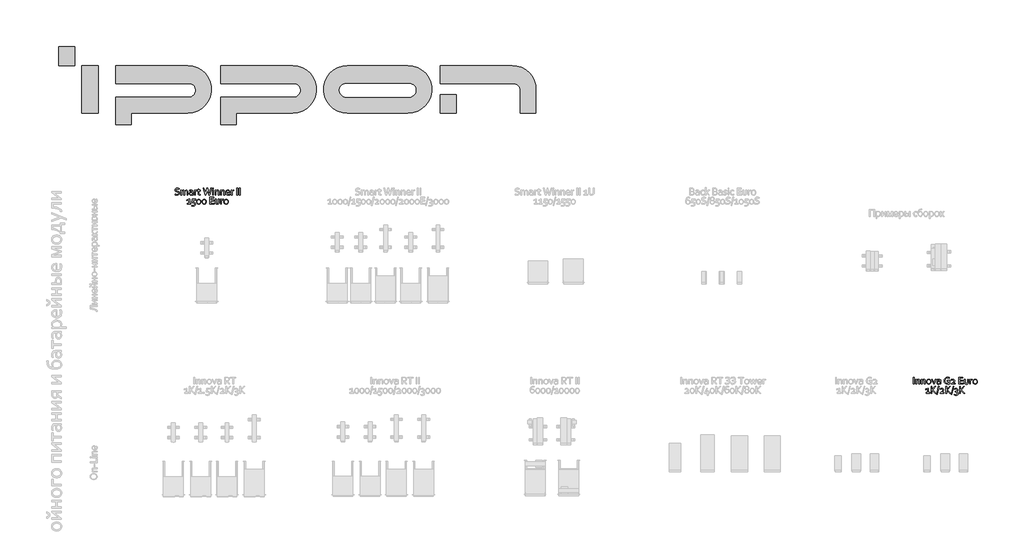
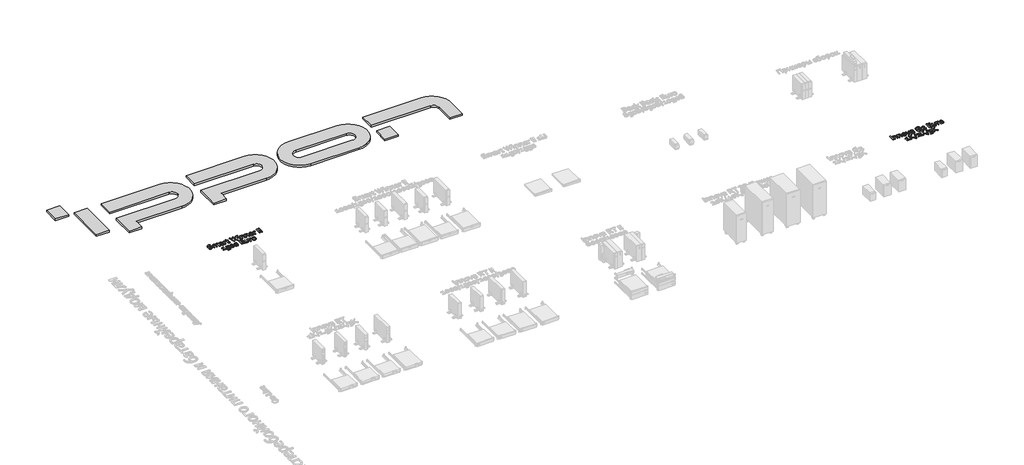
# One storey, part 11 of 14: 3 proxies.
"""IFC4 building model written with IfcOpenShell, lengths in millimetres."""

from ifc_helpers import new_model, si_unit, origin, origin_with_axes, place, context, project, spatial, polyline, outline, extrude, transform, mapped, element, save
from components import generic_models_99963152

model = new_model("IFC4")

# Units and contexts
model_context = context("Model", 3, world=origin())
ifc_project = project(units=[si_unit("LENGTHUNIT", "METRE", prefix="MILLI")], contexts=[model_context])

# Site, building, storey
site = spatial("IfcSite", under=ifc_project)
building = spatial("IfcBuilding", under=site)
storey = spatial("IfcBuildingStorey", under=building, Name="Этаж 01", Elevation=0.0)

# Proxies
placement = place(None, origin())
element("IfcBuildingElementProxy", 1, Name="150 мм Corbel", ObjectType="150 мм Corbel", at=placement, inside=storey, context=model_context, shape_type="SweptSolid", body=[
    extrude(outline(polyline([(4263.4945132, 936.8855088), (4266.2289116, 925.8822898), (4273.5570992, 918.7072285), (4284.2321904, 914.0696889), (4296.9197988, 910.6790349), (4314.3980731, 905.9321193), (4329.6888288, 898.757058), (4340.5389215, 886.8350812), (4344.695207, 867.9786701), (4340.2107937, 847.722247), (4327.8294379, 833.7002522), (4309.2792794, 825.5626827), (4285.938455, 822.9157851), (4274.0164781, 823.6376662), (4262.3570035, 825.5845579), (4252.3162927, 828.3845818), (4245.2506073, 831.4908583), (4245.2506073, 848.1160004), (4254.3288099, 844.681596), (4264.763274, 842.0346984), (4275.6352419, 840.3284338), (4285.938455, 839.7159286), (4300.922958, 841.050315), (4313.4136897, 845.5128531), (4321.9450126, 854.0223008), (4325.0950395, 867.5411663), (4322.2950156, 878.7193868), (4314.8355769, 886.0038241), (4304.0729849, 890.6851141), (4291.2322502, 894.0976432), (4273.8196014, 898.6476821), (4258.6600969, 905.7133675), (4247.9412553, 917.3509669), (4243.8943457, 935.5292472), (4248.138132, 955.3481665), (4259.6226051, 969.0857839), (4276.1821216, 977.1139775), (4296.0447913, 979.7171247), (4318.4012323, 977.4202301), (4337.3888945, 971.4483041), (4337.3888945, 954.5169094), (4318.1606053, 960.5107106), (4296.9197988, 962.9169812), (4282.1102973, 961.0794655), (4271.6977083, 955.8512958), (4265.5289056, 947.6262256), (4263.4945132, 936.8855088)])), origin_with_axes(), (0.0, 0.0, 1.0), 20.0),
    extrude(outline(polyline([(4459.4961878, 825.715809), (4442.6960443, 825.715809), (4442.6960443, 894.7976492), (4441.1647812, 906.7196261), (4436.7022431, 914.8134452), (4429.7240584, 919.4509848), (4420.6458559, 920.9166224), (4403.4300838, 915.6884527), (4389.4955897, 901.3164549), (4389.4955897, 825.715809), (4372.6954462, 825.715809), (4372.6954462, 932.116718), (4386.126811, 932.116718), (4389.4518394, 917.3290917), (4396.1456466, 924.1979004), (4403.7363364, 929.8198234), (4412.9457901, 933.5823556), (4423.9271339, 934.916742), (4434.7772266, 933.489386), (4443.6148021, 929.2073182), (4455.6899053, 913.6540603), (4472.3806729, 929.2729438), (4493.6652297, 934.916742), (4505.6090818, 933.3417285), (4517.2029308, 927.5666792), (4525.996756, 915.9728301), (4529.4967859, 896.9414175), (4529.4967859, 825.715809), (4512.6966423, 825.715809), (4512.6966423, 894.7976492), (4511.1653793, 906.7196261), (4506.7247163, 914.8134452), (4499.7684069, 919.4509848), (4490.6902043, 920.9166224), (4473.4525571, 915.6884527), (4459.4961878, 901.3164549), (4459.4961878, 825.715809)])), origin_with_axes(), (0.0, 0.0, 1.0), 20.0),
    extrude(outline(polyline([(4625.2226037, 837.4846595), (4619.4256792, 832.1689891), (4612.0099909, 827.4439487), (4602.8224124, 824.1407955), (4592.1910715, 822.9157851), (4578.1690767, 825.1689293), (4567.2096081, 831.7971109), (4560.056422, 842.450327), (4557.4970251, 856.6910736), (4560.3407994, 870.6911932), (4568.3033674, 881.1694078), (4580.6190977, 887.7975894), (4596.5223585, 890.1163592), (4611.7693638, 888.6288465), (4624.2600955, 885.2600677), (4624.6975993, 892.8726328), (4624.1288444, 901.207079), (4622.203828, 907.5727583), (4612.9287487, 917.132215), (4595.6473511, 920.9166224), (4580.4440962, 919.4291096), (4566.2908502, 915.3165745), (4566.2908502, 929.0104415), (4572.6127793, 931.3948369), (4580.2909699, 933.2979781), (4588.8004176, 934.5011134), (4597.7911194, 934.916742), (4612.4256194, 933.489386), (4624.0413437, 929.2073182), (4632.7039177, 922.5736678), (4638.478967, 914.091564), (4640.7977368, 906.1946216), (4641.4977428, 896.7226656), (4641.4977428, 825.715809), (4627.1038698, 825.715809), (4625.2226037, 837.4846595)]), holes=[polyline([(4624.6975993, 872.1349556), (4613.081875, 874.7381028), (4598.3161239, 876.1162396), (4580.662848, 871.3474488), (4575.8885885, 865.2989597), (4574.2971686, 856.6910736), (4575.8940573, 847.9409989), (4580.2690947, 841.750321), (4586.8535259, 838.1190399), (4594.9910955, 836.9159047), (4605.5786859, 838.5565437), (4614.2850103, 842.4722021), (4620.7600656, 847.022241), (4624.6975993, 850.5660213), (4624.6975993, 872.1349556)])]), origin_with_axes(), (0.0, 0.0, 1.0), 20.0),
    extrude(outline(polyline([(4732.8922737, 920.9166224), (4719.4609089, 919.7572375), (4708.3045636, 916.2353324), (4698.8982332, 910.3946575), (4691.8981734, 902.1914624), (4691.8981734, 825.715809), (4675.0980299, 825.715809), (4675.0980299, 932.116718), (4688.0918909, 932.116718), (4691.3294186, 915.1853234), (4697.9794754, 922.9291396), (4706.4451727, 929.2073182), (4716.7702609, 933.4073541), (4728.5609867, 934.916742), (4730.8360061, 934.8729916), (4732.8922737, 934.7417405), (4732.8922737, 920.9166224)])), origin_with_axes(), (0.0, 0.0, 1.0), 20.0),
    extrude(outline(polyline([(4806.4804024, 825.3220556), (4799.6553441, 823.7470422), (4788.6740002, 822.9157851), (4774.1926265, 825.015803), (4764.1519157, 831.0096042), (4758.2456153, 840.4378098), (4756.2987236, 852.75354), (4756.2987236, 918.1165984), (4735.7797983, 918.1165984), (4735.7797983, 932.116718), (4756.2987236, 932.116718), (4756.2987236, 960.1169573), (4773.0988672, 960.1169573), (4773.0988672, 932.116718), (4804.9053889, 932.116718), (4804.9053889, 918.1165984), (4773.0988672, 918.1165984), (4773.0988672, 854.5035549), (4774.1488761, 847.4816199), (4777.4957797, 841.9034473), (4783.380205, 838.2284159), (4792.042779, 836.9159047), (4799.3709666, 837.4846595), (4806.4804024, 838.9284219), (4806.4804024, 825.3220556)])), origin_with_axes(), (0.0, 0.0, 1.0), 20.0),
    extrude(outline(polyline([(4959.2567077, 951.9356374), (4950.5941337, 915.5353264), (4927.1439333, 825.715809), (4908.4187733, 825.715809), (4862.6996327, 976.9171008), (4882.2998002, 976.9171008), (4906.975011, 888.1913428), (4916.9938466, 849.7785146), (4922.2657666, 870.2318143), (4926.8814311, 887.9725909), (4949.5003743, 976.9171008), (4969.1005418, 976.9171008), (4991.1507302, 887.9725909), (5000.3383087, 849.7785146), (5011.0571503, 888.1913428), (5036.3011159, 976.9171008), (5055.9012834, 976.9171008), (5009.4821368, 825.715809), (4990.7569768, 825.715809), (4967.7880306, 915.5353264), (4959.2567077, 951.9356374)])), origin_with_axes(), (0.0, 0.0, 1.0), 20.0),
    extrude(outline(polyline([(5075.5014509, 957.3169334), (5075.5014509, 976.9171008), (5092.3015944, 976.9171008), (5092.3015944, 957.3169334), (5075.5014509, 957.3169334)])), origin_with_axes(), (0.0, 0.0, 1.0), 20.0),
    extrude(outline(polyline([(5075.5014509, 825.715809), (5075.5014509, 932.116718), (5092.3015944, 932.116718), (5092.3015944, 825.715809), (5075.5014509, 825.715809)])), origin_with_axes(), (0.0, 0.0, 1.0), 20.0),
    extrude(outline(polyline([(5145.4145482, 917.3290917), (5152.1302306, 924.1979004), (5159.9834227, 929.8198234), (5169.499129, 933.5823556), (5180.7648502, 934.916742), (5194.3712165, 932.9042248), (5205.3744355, 926.4072943), (5212.7682486, 914.7040693), (5215.502647, 896.9414175), (5215.502647, 825.715809), (5198.7025035, 825.715809), (5198.7025035, 894.7976492), (5197.3571795, 906.7579076), (5193.3212075, 914.8134452), (5186.714901, 919.3908281), (5177.6585737, 920.9166224), (5160.1146738, 915.6884527), (5145.5020489, 901.3164549), (5145.5020489, 825.715809), (5128.7019054, 825.715809), (5128.7019054, 932.116718), (5142.0457694, 932.116718), (5145.4145482, 917.3290917)])), origin_with_axes(), (0.0, 0.0, 1.0), 20.0),
    extrude(outline(polyline([(5265.8155769, 917.3290917), (5272.5312592, 924.1979004), (5280.3844513, 929.8198234), (5289.9001576, 933.5823556), (5301.1658789, 934.916742), (5314.7722451, 932.9042248), (5325.7754641, 926.4072943), (5333.1692773, 914.7040693), (5335.9036757, 896.9414175), (5335.9036757, 825.715809), (5319.1035321, 825.715809), (5319.1035321, 894.7976492), (5317.7582082, 906.7579076), (5313.7222362, 914.8134452), (5307.1159297, 919.3908281), (5298.0596023, 920.9166224), (5280.5157025, 915.6884527), (5265.9030776, 901.3164549), (5265.9030776, 825.715809), (5249.1029341, 825.715809), (5249.1029341, 932.116718), (5262.4467981, 932.116718), (5265.8155769, 917.3290917)])), origin_with_axes(), (0.0, 0.0, 1.0), 20.0),
    extrude(outline(polyline([(5419.2481378, 836.9159047), (5435.0201475, 838.3815422), (5449.2171438, 842.5159525), (5449.2171438, 828.6908344), (5435.0857731, 824.4689233), (5417.0168687, 822.9157851), (5395.5573104, 825.8251849), (5378.5384149, 835.2315153), (5367.7320726, 852.2066603), (5363.9039149, 877.4725012), (5367.8851989, 902.7164669), (5378.4727894, 920.5666194), (5393.6979195, 931.3292113), (5411.6793231, 934.916742), (5428.173214, 931.9854669), (5441.4733277, 922.7541381), (5450.3765287, 906.5008742), (5453.6359316, 882.6350453), (5453.6359316, 880.381901), (5453.5046804, 876.1162396), (5379.7853006, 876.1162396), (5382.869702, 857.9160841), (5391.2916489, 845.7972306), (5403.8042558, 839.0377978), (5419.2481378, 836.9159047)]), holes=[polyline([(5410.9355667, 920.9166224), (5399.4292184, 918.4884766), (5390.1541392, 911.8821702), (5383.7228342, 902.1039616), (5380.7040584, 890.1163592), (5436.7045369, 890.1163592), (5435.0201475, 902.2133376), (5430.0544801, 911.9915461), (5422.0044113, 918.532227), (5410.9355667, 920.9166224)])]), origin_with_axes(), (0.0, 0.0, 1.0), 20.0),
    extrude(outline(polyline([(5542.0991874, 920.9166224), (5528.6678226, 919.7572375), (5517.5114773, 916.2353324), (5508.1051469, 910.3946575), (5501.1050871, 902.1914624), (5501.1050871, 825.715809), (5484.3049436, 825.715809), (5484.3049436, 932.116718), (5497.2988046, 932.116718), (5500.5363323, 915.1853234), (5507.1863891, 922.9291396), (5515.6520864, 929.2073182), (5525.9771746, 933.4073541), (5537.7679004, 934.916742), (5540.0429198, 934.8729916), (5542.0991874, 934.7417405), (5542.0991874, 920.9166224)])), origin_with_axes(), (0.0, 0.0, 1.0), 20.0),
    extrude(outline(polyline([(5607.5059962, 825.715809), (5607.5059962, 976.9171008), (5627.1061637, 976.9171008), (5627.1061637, 825.715809), (5607.5059962, 825.715809)])), origin_with_axes(), (0.0, 0.0, 1.0), 20.0),
    extrude(outline(polyline([(5663.5064747, 825.715809), (5663.5064747, 976.9171008), (5683.1066421, 976.9171008), (5683.1066421, 825.715809), (5663.5064747, 825.715809)])), origin_with_axes(), (0.0, 0.0, 1.0), 20.0),
    extrude(outline(polyline([(4547.6969414, 639.315498), (4547.6969414, 717.7161678), (4507.2278456, 703.7160482), (4507.2278456, 717.7161678), (4549.9719608, 731.7162874), (4564.4970849, 731.7162874), (4564.4970849, 639.315498), (4593.8535857, 639.315498), (4593.8535857, 625.3153784), (4511.9091356, 625.3153784), (4511.9091356, 639.315498), (4547.6969414, 639.315498)])), origin_with_axes(), (0.0, 0.0, 1.0), 20.0),
    extrude(outline(polyline([(4698.8982332, 625.4466295), (4695.4200785, 606.3933417), (4685.2262414, 591.2775876), (4668.2948467, 581.3025023), (4645.0852735, 577.7149717), (4628.8320096, 579.2024844), (4614.9412659, 583.7525233), (4614.9412659, 597.3151391), (4630.6257749, 592.8744762), (4644.2977667, 591.7150913), (4660.9010336, 594.3401137), (4672.6698841, 601.4932998), (4679.7355695, 612.0371399), (4682.0980897, 624.6591228), (4679.6043184, 638.5936168), (4671.7948767, 648.3718254), (4658.14476, 654.1906251), (4638.0414633, 656.1156415), (4618.2662943, 654.9781318), (4628.8976351, 731.7162874), (4699.9482422, 731.7162874), (4699.9482422, 717.7161678), (4645.6977787, 717.7161678), (4639.4414752, 669.8970093), (4645.6977787, 670.1157611), (4668.4479731, 667.0969853), (4685.1387407, 658.3687858), (4695.3982033, 644.3686662), (4698.8982332, 625.4466295)])), origin_with_axes(), (0.0, 0.0, 1.0), 20.0),
    extrude(outline(polyline([(4816.499238, 678.3845818), (4813.2835855, 656.290643), (4803.9428807, 638.5498664), (4789.0458784, 626.7810159), (4768.986332, 622.5153544), (4748.5330323, 626.7810159), (4733.5704045, 638.5498664), (4724.4047011, 656.290643), (4721.2984246, 678.3845818), (4724.5140771, 700.6316469), (4733.8547819, 718.438049), (4748.8174097, 730.2506499), (4768.8988313, 734.5163114), (4789.2646303, 730.2506499), (4804.2272581, 718.438049), (4813.3929614, 700.6316469), (4816.499238, 678.3845818)]), holes=[polyline([(4799.6990944, 678.3845818), (4797.5115758, 696.0378576), (4791.3208979, 709.2723457), (4781.6520653, 717.6067919), (4768.8988313, 720.5161917), (4756.1455973, 717.6067919), (4746.4330143, 709.2723457), (4740.2423365, 696.0378576), (4738.0985681, 678.3845818), (4740.2860868, 660.8844323), (4746.4767647, 647.6936946), (4756.2112229, 639.4248739), (4769.0300824, 636.5154741), (4781.7614412, 639.4248739), (4791.4302738, 647.6936946), (4797.5553261, 660.8844323), (4799.6990944, 678.3845818)])]), origin_with_axes(), (0.0, 0.0, 1.0), 20.0),
    extrude(outline(polyline([(4934.1002427, 678.3845818), (4930.8845903, 656.290643), (4921.5438855, 638.5498664), (4906.6468832, 626.7810159), (4886.5873368, 622.5153544), (4866.1340371, 626.7810159), (4851.1714092, 638.5498664), (4842.0057059, 656.290643), (4838.8994294, 678.3845818), (4842.1150818, 700.6316469), (4851.4557866, 718.438049), (4866.4184145, 730.2506499), (4886.4998361, 734.5163114), (4906.8656351, 730.2506499), (4921.8282629, 718.438049), (4930.9939662, 700.6316469), (4934.1002427, 678.3845818)]), holes=[polyline([(4917.3000992, 678.3845818), (4915.1125805, 696.0378576), (4908.9219026, 709.2723457), (4899.25307, 717.6067919), (4886.4998361, 720.5161917), (4873.7466021, 717.6067919), (4864.0340191, 709.2723457), (4857.8433412, 696.0378576), (4855.6995729, 678.3845818), (4857.8870916, 660.8844323), (4864.0777695, 647.6936946), (4873.8122277, 639.4248739), (4886.6310872, 636.5154741), (4899.362446, 639.4248739), (4909.0312786, 647.6936946), (4915.1563309, 660.8844323), (4917.3000992, 678.3845818)])]), origin_with_axes(), (0.0, 0.0, 1.0), 20.0),
    extrude(outline(polyline([(5029.3010561, 642.1155219), (5106.2142133, 642.1155219), (5106.2142133, 625.3153784), (5009.7008887, 625.3153784), (5009.7008887, 776.5166702), (5102.0579277, 776.5166702), (5102.0579277, 759.7165267), (5029.3010561, 759.7165267), (5029.3010561, 712.11612), (5094.007859, 712.11612), (5094.007859, 695.3159764), (5029.3010561, 695.3159764), (5029.3010561, 642.1155219)])), origin_with_axes(), (0.0, 0.0, 1.0), 20.0),
    extrude(outline(polyline([(5175.9523091, 622.5153544), (5161.1646827, 624.3091198), (5149.6583344, 629.3404128), (5141.2582627, 637.1279793), (5135.7894659, 647.0593141), (5133.5800721, 655.8968896), (5132.9019413, 666.4407297), (5132.9019413, 731.7162874), (5149.7020848, 731.7162874), (5149.7020848, 666.003226), (5152.064605, 651.0843485), (5160.8365549, 640.4092573), (5176.3023121, 636.5154741), (5192.3368241, 640.8030107), (5200.9775229, 652.309359), (5202.9025393, 666.003226), (5202.9025393, 731.7162874), (5219.7026829, 731.7162874), (5219.7026829, 666.3094786), (5219.0901776, 656.290643), (5217.1214108, 647.7155697), (5211.6307389, 637.5873582), (5202.9900401, 629.5591646), (5191.155564, 624.3528701), (5175.9523091, 622.5153544)])), origin_with_axes(), (0.0, 0.0, 1.0), 20.0),
    extrude(outline(polyline([(5308.2971898, 720.5161917), (5294.8658251, 719.3568068), (5283.7094797, 715.8349017), (5274.3031494, 709.9942268), (5267.3030896, 701.7910318), (5267.3030896, 625.3153784), (5250.502946, 625.3153784), (5250.502946, 731.7162874), (5263.4968071, 731.7162874), (5266.7343347, 714.7848928), (5273.3843915, 722.5287089), (5281.8500889, 728.8068876), (5292.1751771, 733.0069235), (5303.9659028, 734.5163114), (5306.2409222, 734.472561), (5308.2971898, 734.3413099), (5308.2971898, 720.5161917)])), origin_with_axes(), (0.0, 0.0, 1.0), 20.0),
    extrude(outline(polyline([(5421.3044053, 678.3845818), (5417.7387499, 655.5687618), (5407.6324135, 637.915486), (5391.8166534, 626.5403888), (5371.0352258, 622.5153544), (5349.8381697, 626.5403888), (5333.956784, 637.915486), (5323.9598236, 655.5687618), (5320.5035441, 678.3845818), (5324.0691996, 701.3754032), (5334.1755359, 719.0724294), (5350.0569216, 730.491277), (5370.9039747, 734.5163114), (5392.0135301, 730.491277), (5407.8949158, 719.0724294), (5417.8481258, 701.3754032), (5421.3044053, 678.3845818)]), holes=[polyline([(5404.5042618, 678.3845818), (5402.0104905, 696.2566095), (5395.0323059, 709.4910975), (5384.3790898, 717.7161678), (5370.9039747, 720.5161917), (5357.4288596, 717.7161678), (5346.7756436, 709.4910975), (5339.7974589, 696.2566095), (5337.3036876, 678.3845818), (5339.7974589, 660.6438052), (5346.8412691, 647.4749427), (5357.5382355, 639.315498), (5371.0352258, 636.5154741), (5384.4447154, 639.315498), (5395.0323059, 647.4749427), (5402.0104905, 660.6438052), (5404.5042618, 678.3845818)])]), origin_with_axes(), (0.0, 0.0, 1.0), 20.0),
])
element("IfcBuildingElementProxy", 2, Name="150 мм Corbel", ObjectType="150 мм Corbel", at=placement, inside=storey, context=model_context, shape_type="SweptSolid", body=[
    extrude(outline(polyline([(20514.9212919, -3344.4864996), (20514.9212919, -3193.2852077), (20534.5214594, -3193.2852077), (20534.5214594, -3344.4864996), (20514.9212919, -3344.4864996)])), origin_with_axes(), (0.0, 0.0, 1.0), 20.0),
    extrude(outline(polyline([(20584.8343892, -3252.8732169), (20591.5500716, -3246.0044082), (20599.4032637, -3240.3824851), (20608.91897, -3236.619953), (20620.1846913, -3235.2855666), (20633.7910575, -3237.2980838), (20644.7942765, -3243.7950143), (20652.1880897, -3255.4982393), (20654.922488, -3273.260891), (20654.922488, -3344.4864996), (20638.1223445, -3344.4864996), (20638.1223445, -3275.4046594), (20636.7770205, -3263.4444009), (20632.7410485, -3255.3888633), (20626.1347421, -3250.8114805), (20617.0784147, -3249.2856862), (20599.5345148, -3254.5138559), (20584.92189, -3268.8858537), (20584.92189, -3344.4864996), (20568.1217464, -3344.4864996), (20568.1217464, -3238.0855905), (20581.4656104, -3238.0855905), (20584.8343892, -3252.8732169)])), origin_with_axes(), (0.0, 0.0, 1.0), 20.0),
    extrude(outline(polyline([(20705.2354179, -3252.8732169), (20711.9511003, -3246.0044082), (20719.8042924, -3240.3824851), (20729.3199987, -3236.619953), (20740.5857199, -3235.2855666), (20754.1920862, -3237.2980838), (20765.1953052, -3243.7950143), (20772.5891184, -3255.4982393), (20775.3235167, -3273.260891), (20775.3235167, -3344.4864996), (20758.5233732, -3344.4864996), (20758.5233732, -3275.4046594), (20757.1780492, -3263.4444009), (20753.1420772, -3255.3888633), (20746.5357708, -3250.8114805), (20737.4794434, -3249.2856862), (20719.9355435, -3254.5138559), (20705.3229187, -3268.8858537), (20705.3229187, -3344.4864996), (20688.5227751, -3344.4864996), (20688.5227751, -3238.0855905), (20701.8666391, -3238.0855905), (20705.2354179, -3252.8732169)])), origin_with_axes(), (0.0, 0.0, 1.0), 20.0),
    extrude(outline(polyline([(20904.1246172, -3291.4172962), (20900.5589617, -3314.2331161), (20890.4526254, -3331.8863919), (20874.6368652, -3343.2614891), (20853.8554377, -3347.2865235), (20832.6583816, -3343.2614891), (20816.7769959, -3331.8863919), (20806.7800355, -3314.2331161), (20803.323756, -3291.4172962), (20806.8894114, -3268.4264747), (20816.9957478, -3250.7294485), (20832.8771335, -3239.310601), (20853.7241866, -3235.2855666), (20874.8337419, -3239.310601), (20890.7151276, -3250.7294485), (20900.6683377, -3268.4264747), (20904.1246172, -3291.4172962)]), holes=[polyline([(20887.3244736, -3291.4172962), (20884.8307023, -3273.5452685), (20877.8525177, -3260.3107804), (20867.1993017, -3252.0857101), (20853.7241866, -3249.2856862), (20840.2490714, -3252.0857101), (20829.5958554, -3260.3107804), (20822.6176708, -3273.5452685), (20820.1238995, -3291.4172962), (20822.6176708, -3309.1580727), (20829.661481, -3322.3269353), (20840.3584474, -3330.48638), (20853.8554377, -3333.2864039), (20867.2649273, -3330.48638), (20877.8525177, -3322.3269353), (20884.8307023, -3309.1580727), (20887.3244736, -3291.4172962)])]), origin_with_axes(), (0.0, 0.0, 1.0), 20.0),
    extrude(outline(polyline([(20967.0376547, -3326.8988493), (20977.8002467, -3297.2360959), (20999.3254306, -3238.0855905), (21016.1255741, -3238.0855905), (20976.0939821, -3344.4864996), (20958.1563288, -3344.4864996), (20918.1247368, -3238.0855905), (20934.9248803, -3238.0855905), (20956.3188131, -3297.2360959), (20967.0376547, -3326.8988493)])), origin_with_axes(), (0.0, 0.0, 1.0), 20.0),
    extrude(outline(polyline([(21100.6512963, -3332.717649), (21094.8543717, -3338.0333194), (21087.4386834, -3342.7583598), (21078.2511049, -3346.061513), (21067.6197641, -3347.2865235), (21053.5977693, -3345.0333793), (21042.6383006, -3338.4051976), (21035.4851145, -3327.7519816), (21032.9257176, -3313.5112349), (21035.7694919, -3299.5111153), (21043.73206, -3289.0329008), (21056.0477902, -3282.4047192), (21071.9510511, -3280.0859494), (21087.1980563, -3281.5734621), (21099.6887881, -3284.9422408), (21100.1262918, -3277.3296758), (21099.5575369, -3268.9952296), (21097.6325205, -3262.6295502), (21088.3574412, -3253.0700935), (21071.0760436, -3249.2856862), (21055.8727887, -3250.7731989), (21041.7195428, -3254.885734), (21041.7195428, -3241.1918671), (21048.0414718, -3238.8074717), (21055.7196624, -3236.9043304), (21064.2291101, -3235.7011951), (21073.2198119, -3235.2855666), (21087.8543119, -3236.7129225), (21099.4700362, -3240.9949904), (21108.1326102, -3247.6286408), (21113.9076595, -3256.1107445), (21116.2264293, -3264.007687), (21116.9264353, -3273.4796429), (21116.9264353, -3344.4864996), (21102.5325624, -3344.4864996), (21100.6512963, -3332.717649)]), holes=[polyline([(21100.1262918, -3298.067353), (21088.5105675, -3295.4642057), (21073.7448164, -3294.086069), (21056.0915406, -3298.8548597), (21051.317281, -3304.9033489), (21049.7258612, -3313.5112349), (21051.3227498, -3322.2613097), (21055.6977872, -3328.4519876), (21062.2822185, -3332.0832686), (21070.419788, -3333.2864039), (21081.0073784, -3331.6457649), (21089.7137028, -3327.7301064), (21096.1887581, -3323.1800675), (21100.1262918, -3319.6362873), (21100.1262918, -3298.067353)])]), origin_with_axes(), (0.0, 0.0, 1.0), 20.0),
    extrude(outline(polyline([(21296.1279664, -3282.8859733), (21261.9151741, -3282.8859733), (21261.9151741, -3266.0858297), (21315.7281339, -3266.0858297), (21315.7281339, -3339.7614592), (21308.7718244, -3342.3427313), (21298.2936099, -3344.7927522), (21285.6716271, -3346.6083927), (21272.3715134, -3347.2865235), (21238.0055948, -3341.9708531), (21213.0241314, -3326.9425997), (21204.1592119, -3316.1854765), (21197.7333757, -3303.339273), (21192.5270812, -3272.3858836), (21197.7552509, -3238.7418461), (21204.290463, -3224.7034449), (21213.4397599, -3212.8635), (21225.0828281, -3203.3532625), (21239.0993542, -3196.3039835), (21272.5902653, -3190.4851838), (21282.4340994, -3190.9445627), (21291.862305, -3192.257074), (21300.1530008, -3194.2914663), (21306.5405554, -3196.7852376), (21306.5405554, -3215.6853991), (21291.052923, -3209.6915979), (21273.5965239, -3207.2853274), (21249.1838153, -3211.1572354), (21228.7305156, -3222.8823356), (21214.5991448, -3242.5700038), (21209.3272248, -3270.329616), (21213.7678877, -3297.2798463), (21226.324245, -3316.0050062), (21246.0337884, -3326.9425997), (21271.8027586, -3330.48638), (21284.7747444, -3329.8082492), (21296.1279664, -3327.9051079), (21296.1279664, -3282.8859733)])), origin_with_axes(), (0.0, 0.0, 1.0), 20.0),
    extrude(outline(polyline([(21377.1099083, -3330.9238837), (21400.2976064, -3330.48638), (21433.9853942, -3330.48638), (21433.9853942, -3344.4864996), (21348.7159157, -3344.4864996), (21348.7159157, -3334.9489181), (21372.4942439, -3317.1643911), (21391.2631542, -3301.348631), (21403.64451, -3286.6047551), (21408.1289233, -3272.1671317), (21406.5593787, -3263.5592457), (21401.8507447, -3257.2482542), (21394.1998981, -3253.3763462), (21383.8037155, -3252.0857101), (21366.8285704, -3253.6825988), (21349.8534254, -3257.685758), (21349.8534254, -3245.6106548), (21365.60356, -3240.3387348), (21386.1662357, -3238.0855905), (21402.3101236, -3240.3168596), (21414.5383531, -3246.8137901), (21422.2165437, -3257.3576302), (21424.9290668, -3271.8608791), (21421.3852866, -3288.2235189), (21411.5852028, -3302.8361437), (21396.3600728, -3316.6612618), (21377.1099083, -3330.9238837)])), origin_with_axes(), (0.0, 0.0, 1.0), 20.0),
    extrude(outline(polyline([(21534.1299998, -3327.686356), (21611.043157, -3327.686356), (21611.043157, -3344.4864996), (21514.5298324, -3344.4864996), (21514.5298324, -3193.2852077), (21606.8868715, -3193.2852077), (21606.8868715, -3210.0853513), (21534.1299998, -3210.0853513), (21534.1299998, -3257.685758), (21598.8368027, -3257.685758), (21598.8368027, -3274.4859015), (21534.1299998, -3274.4859015), (21534.1299998, -3327.686356)])), origin_with_axes(), (0.0, 0.0, 1.0), 20.0),
    extrude(outline(polyline([(21680.7812528, -3347.2865235), (21665.9936265, -3345.4927582), (21654.4872782, -3340.4614652), (21646.0872064, -3332.6738987), (21640.6184097, -3322.7425638), (21638.4090158, -3313.9049883), (21637.730885, -3303.3611482), (21637.730885, -3238.0855905), (21654.5310285, -3238.0855905), (21654.5310285, -3303.798652), (21656.8935487, -3318.7175294), (21665.6654987, -3329.3926206), (21681.1312558, -3333.2864039), (21697.1657678, -3328.9988673), (21705.8064666, -3317.492519), (21707.7314831, -3303.798652), (21707.7314831, -3238.0855905), (21724.5316266, -3238.0855905), (21724.5316266, -3303.4923993), (21723.9191214, -3313.5112349), (21721.9503545, -3322.0863082), (21716.4596826, -3332.2145197), (21707.8189838, -3340.2427133), (21695.9845077, -3345.4490078), (21680.7812528, -3347.2865235)])), origin_with_axes(), (0.0, 0.0, 1.0), 20.0),
    extrude(outline(polyline([(21813.1261335, -3249.2856862), (21799.6947688, -3250.4450711), (21788.5384235, -3253.9669762), (21779.1320931, -3259.8076511), (21772.1320333, -3268.0108462), (21772.1320333, -3344.4864996), (21755.3318898, -3344.4864996), (21755.3318898, -3238.0855905), (21768.3257508, -3238.0855905), (21771.5632784, -3255.0169852), (21778.2133352, -3247.273169), (21786.6790326, -3240.9949904), (21797.0041208, -3236.7949545), (21808.7948465, -3235.2855666), (21811.069866, -3235.329317), (21813.1261335, -3235.4605681), (21813.1261335, -3249.2856862)])), origin_with_axes(), (0.0, 0.0, 1.0), 20.0),
    extrude(outline(polyline([(21926.1333491, -3291.4172962), (21922.5676936, -3314.2331161), (21912.4613572, -3331.8863919), (21896.6455971, -3343.2614891), (21875.8641696, -3347.2865235), (21854.6671135, -3343.2614891), (21838.7857278, -3331.8863919), (21828.7887674, -3314.2331161), (21825.3324878, -3291.4172962), (21828.8981433, -3268.4264747), (21839.0044796, -3250.7294485), (21854.8858653, -3239.310601), (21875.7329184, -3235.2855666), (21896.8424738, -3239.310601), (21912.7238595, -3250.7294485), (21922.6770695, -3268.4264747), (21926.1333491, -3291.4172962)]), holes=[polyline([(21909.3332055, -3291.4172962), (21906.8394342, -3273.5452685), (21899.8612496, -3260.3107804), (21889.2080336, -3252.0857101), (21875.7329184, -3249.2856862), (21862.2578033, -3252.0857101), (21851.6045873, -3260.3107804), (21844.6264027, -3273.5452685), (21842.1326314, -3291.4172962), (21844.6264027, -3309.1580727), (21851.6702129, -3322.3269353), (21862.3671792, -3330.48638), (21875.8641696, -3333.2864039), (21889.2736591, -3330.48638), (21899.8612496, -3322.3269353), (21906.8394342, -3309.1580727), (21909.3332055, -3291.4172962)])]), origin_with_axes(), (0.0, 0.0, 1.0), 20.0),
    extrude(outline(polyline([(20829.9239832, -3530.8868106), (20829.9239832, -3452.4861407), (20789.4548875, -3466.4862604), (20789.4548875, -3452.4861407), (20832.1990027, -3438.4860211), (20846.7241268, -3438.4860211), (20846.7241268, -3530.8868106), (20876.0806276, -3530.8868106), (20876.0806276, -3544.8869302), (20794.1361775, -3544.8869302), (20794.1361775, -3530.8868106), (20829.9239832, -3530.8868106)])), origin_with_axes(), (0.0, 0.0, 1.0), 20.0),
    extrude(outline(polyline([(20902.7246052, -3544.8869302), (20902.7246052, -3393.6856384), (20922.3247727, -3393.6856384), (20922.3247727, -3468.3675264), (20989.5253468, -3393.6856384), (21009.1255143, -3393.6856384), (20939.1686666, -3468.9362813), (21014.7255621, -3544.8869302), (20995.1253947, -3544.8869302), (20922.5435246, -3470.8612977), (20922.5435246, -3544.8869302), (20902.7246052, -3544.8869302)])), origin_with_axes(), (0.0, 0.0, 1.0), 20.0),
    extrude(outline(polyline([(21025.1381511, -3572.8871694), (21067.7510152, -3393.6856384), (21084.3324069, -3393.6856384), (21041.7195428, -3572.8871694), (21025.1381511, -3572.8871694)])), origin_with_axes(), (0.0, 0.0, 1.0), 20.0),
    extrude(outline(polyline([(21132.107815, -3531.3243143), (21155.2955131, -3530.8868106), (21188.983301, -3530.8868106), (21188.983301, -3544.8869302), (21103.7138224, -3544.8869302), (21103.7138224, -3535.3493487), (21127.4921506, -3517.5648218), (21146.261061, -3501.7490616), (21158.6424167, -3487.0051857), (21163.1268301, -3472.5675623), (21161.5572854, -3463.9596763), (21156.8486514, -3457.6486848), (21149.1978048, -3453.7767768), (21138.8016222, -3452.4861407), (21121.8264772, -3454.0830294), (21104.8513322, -3458.0861886), (21104.8513322, -3446.0110854), (21120.6014667, -3440.7391654), (21141.1641424, -3438.4860211), (21157.3080303, -3440.7172902), (21169.5362598, -3447.2142207), (21177.2144504, -3457.7580608), (21179.9269736, -3472.2613097), (21176.3831933, -3488.6239495), (21166.5831096, -3503.2365743), (21151.3579795, -3517.0616925), (21132.107815, -3531.3243143)])), origin_with_axes(), (0.0, 0.0, 1.0), 20.0),
    extrude(outline(polyline([(21224.7273564, -3544.8869302), (21224.7273564, -3393.6856384), (21244.3275238, -3393.6856384), (21244.3275238, -3468.3675264), (21311.528098, -3393.6856384), (21331.1282654, -3393.6856384), (21261.1714177, -3468.9362813), (21336.7283133, -3544.8869302), (21317.1281458, -3544.8869302), (21244.5462757, -3470.8612977), (21244.5462757, -3544.8869302), (21224.7273564, -3544.8869302)])), origin_with_axes(), (0.0, 0.0, 1.0), 20.0),
    extrude(outline(polyline([(21347.1409022, -3572.8871694), (21389.7537663, -3393.6856384), (21406.335158, -3393.6856384), (21363.7222939, -3572.8871694), (21347.1409022, -3572.8871694)])), origin_with_axes(), (0.0, 0.0, 1.0), 20.0),
    extrude(outline(polyline([(21470.6482075, -3511.6803965), (21482.0233047, -3514.8085482), (21491.6483869, -3521.5242306), (21498.8890738, -3532.2649474), (21501.9297247, -3547.2057), (21498.7140723, -3565.8871096), (21489.1764908, -3580.1934818), (21472.9451021, -3589.2935596), (21450.0417814, -3592.4873369), (21432.6947582, -3590.9560738), (21418.0602582, -3586.4497853), (21418.0602582, -3572.8871694), (21434.0072694, -3577.1747061), (21448.7730206, -3578.4872173), (21466.0544182, -3575.9059452), (21477.2107635, -3569.1027621), (21483.2701903, -3559.3245535), (21485.1295812, -3547.7307045), (21482.6740915, -3534.9282514), (21475.3076223, -3526.2711461), (21463.5442405, -3521.3328227), (21447.8980131, -3519.6867149), (21435.9979114, -3519.6867149), (21435.9979114, -3505.6865953), (21442.9542209, -3505.6865953), (21459.5137373, -3503.4990766), (21470.8888345, -3497.461525), (21477.4513906, -3488.3833224), (21479.5295333, -3477.1176012), (21477.2326387, -3466.092507), (21470.9544601, -3458.4361916), (21461.5918801, -3453.9517783), (21450.0417814, -3452.4861407), (21434.663525, -3453.9955286), (21419.4165198, -3458.0861886), (21419.4165198, -3444.6110735), (21436.9604196, -3439.8204075), (21451.7042956, -3438.4860211), (21471.1075864, -3441.3516706), (21485.0639556, -3449.3798642), (21493.420277, -3461.5862185), (21496.3296769, -3477.1176012), (21494.9734153, -3488.0114443), (21490.5327524, -3497.811528), (21482.5701843, -3505.8397216), (21470.6482075, -3511.6803965)])), origin_with_axes(), (0.0, 0.0, 1.0), 20.0),
    extrude(outline(polyline([(21532.7299879, -3544.8869302), (21532.7299879, -3393.6856384), (21552.3301553, -3393.6856384), (21552.3301553, -3468.3675264), (21619.5307295, -3393.6856384), (21639.130897, -3393.6856384), (21569.1740493, -3468.9362813), (21644.7309448, -3544.8869302), (21625.1307773, -3544.8869302), (21552.5489072, -3470.8612977), (21552.5489072, -3544.8869302), (21532.7299879, -3544.8869302)])), origin_with_axes(), (0.0, 0.0, 1.0), 20.0),
])
generic_models_shape = generic_models_99963152(model_context)
element("IfcBuildingElementProxy", 3, Name="IPPON_Логотип : IPPON_Логотип", ObjectType="IPPON_Логотип : IPPON_Логотип", at=placement, inside=storey, context=model_context, shape_type="MappedRepresentation", body=[
    mapped(generic_models_shape, transform((-1500.0, 0.0, 0.0), x_axis=(1.0, 0.0, 0.0), y_axis=(0.0, 1.0, 0.0), z_axis=(0.0, 0.0, 1.0))),
])

save(model, "model.ifc")
